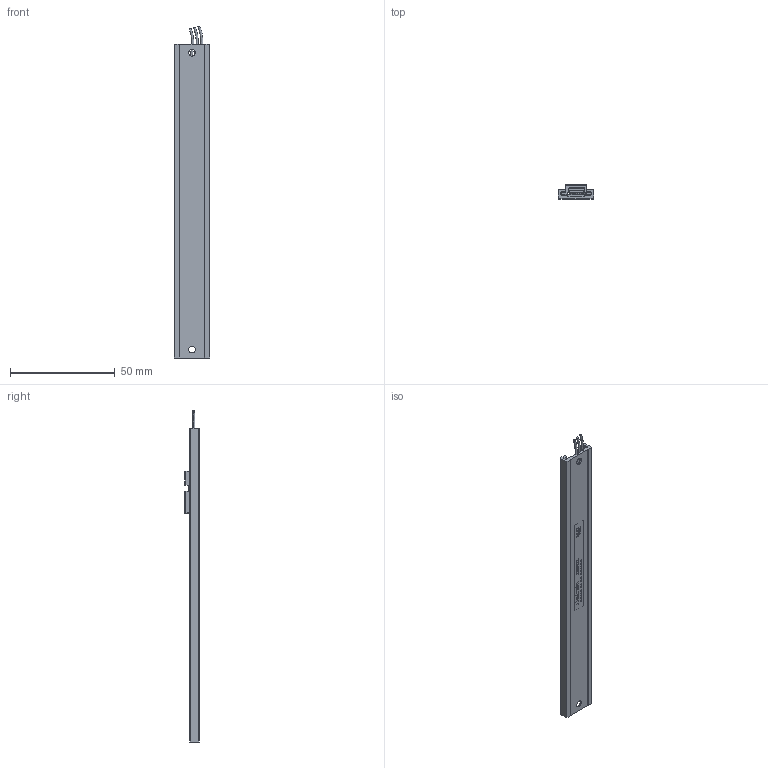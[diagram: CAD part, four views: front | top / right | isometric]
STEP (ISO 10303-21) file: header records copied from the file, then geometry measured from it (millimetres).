
FILE_DESCRIPTION (( 'STEP AP214' ), '1' );
FILE_NAME ('MBX_100.STEP', '2016-11-28T08:18:09', ( '' ), ( '' ), 'SwSTEP 2.0', 'SolidWorks 2016', '' );
FILE_SCHEMA (( 'AUTOMOTIVE_DESIGN' ));
Length unit declared in the file: millimetre
Products named in the file (8): Label 50x6-Vorlage; kabel_dummy_mbx; MBW-Resistor 100; MBW-Schiene 150-100; MBX_Elero_Schleiferträger_Komp_Heraeus Schleifer eingefedert; 32.001.02.hlf.clip_mit Klemme; 32.001.02.hlf.slider_mit Klemme; MBX_100
Assembly tree (7 placements, depth 3):
  MBX_100
    MBX_Elero_Schleiferträger_Komp_Heraeus Schleifer eingefedert
      32.001.02.hlf.slider_mit Klemme
      32.001.02.hlf.clip_mit Klemme
    MBW-Schiene 150-100
    MBW-Resistor 100
    kabel_dummy_mbx
    Label 50x6-Vorlage
Bounding box: 17 x 6.77 x 158.8 mm (x, y, z)
Volume: 6715.4 mm3; surface area: 12638.2 mm2
Topology: 8 solids, 8 shells, 1369 faces, 3720 edges, 2423 vertices
Faces by surface type: plane 892, bspline 289, cylinder 157, sphere 18, torus 8, cone 5
Entity records: 61024 total; most frequent: CARTESIAN_POINT 17125, ORIENTED_EDGE 7404, DIRECTION 5573, EDGE_CURVE 3702, VECTOR 2777, LINE 2777, VERTEX_POINT 2423, EDGE_LOOP 1451
